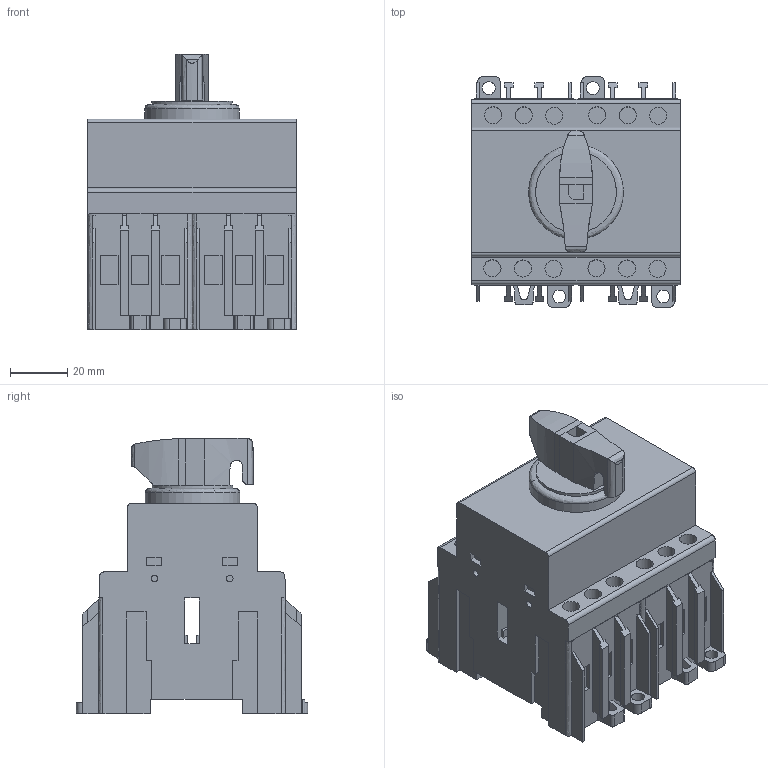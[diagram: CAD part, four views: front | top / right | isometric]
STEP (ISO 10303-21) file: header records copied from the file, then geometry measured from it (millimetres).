
FILE_DESCRIPTION (( 'STEP AP203' ), '1' );
FILE_NAME ('OptiSwitch DI-16-63C-3 (m=0,3羱).STEP', '2023-02-21T19:13:43', ( '砐錪賧瘔蠈錪' ), ( '' ), 'SwSTEP 2.0', 'SolidWorks 2018', '' );
FILE_SCHEMA (( 'CONFIG_CONTROL_DESIGN' ));
Length unit declared in the file: millimetre
Products named in the file (1): OptiSwitch DI-16-63C-3 (m=0,3羱)
Bounding box: 72.85 x 80.96 x 96.4 mm (x, y, z)
Volume: 289332.9 mm3; surface area: 56299 mm2
Topology: 1 solids, 1 shells, 509 faces, 1385 edges, 917 vertices
Faces by surface type: plane 428, bspline 52, cylinder 29
Full cylindrical faces by diameter (mm): 4.5 x4, 6 x12, 28.305 x1, 33.181 x1
Entity records: 16524 total; most frequent: CARTESIAN_POINT 4102, ORIENTED_EDGE 2722, DIRECTION 2207, EDGE_CURVE 1361, VECTOR 1177, LINE 1177, VERTEX_POINT 916, EDGE_LOOP 585
